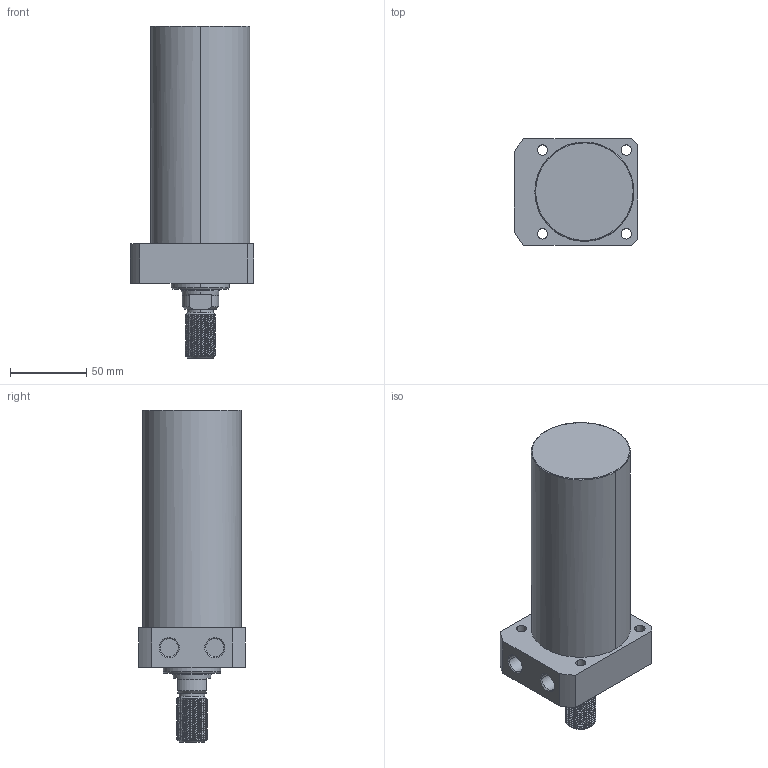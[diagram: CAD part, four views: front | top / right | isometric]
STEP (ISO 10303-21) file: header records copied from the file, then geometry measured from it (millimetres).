
FILE_DESCRIPTION((' '),'2;1');
FILE_NAME( 'TLLR-065CT-110.STEP.stp', '2025-10-24T16:35:00', (' '), ('--- Datakit www.datakit.com---'), ' Datakit CrossCadWare V2024.1 Dec 21 2023', 'Mastercam 2025', ' ');
FILE_SCHEMA(('AUTOMOTIVE_DESIGN { 1 0 10303 214 1 1 1 1 }'));
Length unit declared in the file: millimetre
Products named in the file (1): TLLR-065CT-110
Bounding box: 81 x 70 x 218 mm (x, y, z)
Volume: 631085.1 mm3; surface area: 55657.5 mm2
Topology: 1 solids, 1 shells, 106 faces, 382 edges, 286 vertices
Faces by surface type: cylinder 66, plane 20, cone 16, bspline 2, torus 2
Entity records: 12102 total; most frequent: CARTESIAN_POINT 8844, ORIENTED_EDGE 764, DIRECTION 533, EDGE_CURVE 382, VERTEX_POINT 286, AXIS2_PLACEMENT_3D 215, B_SPLINE_CURVE_WITH_KNOTS 169, EDGE_LOOP 122
